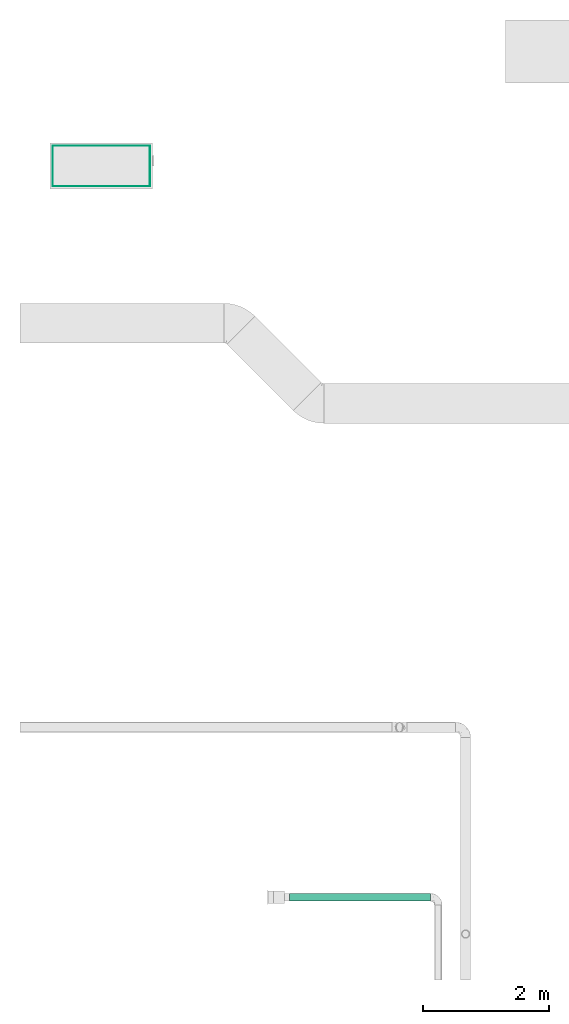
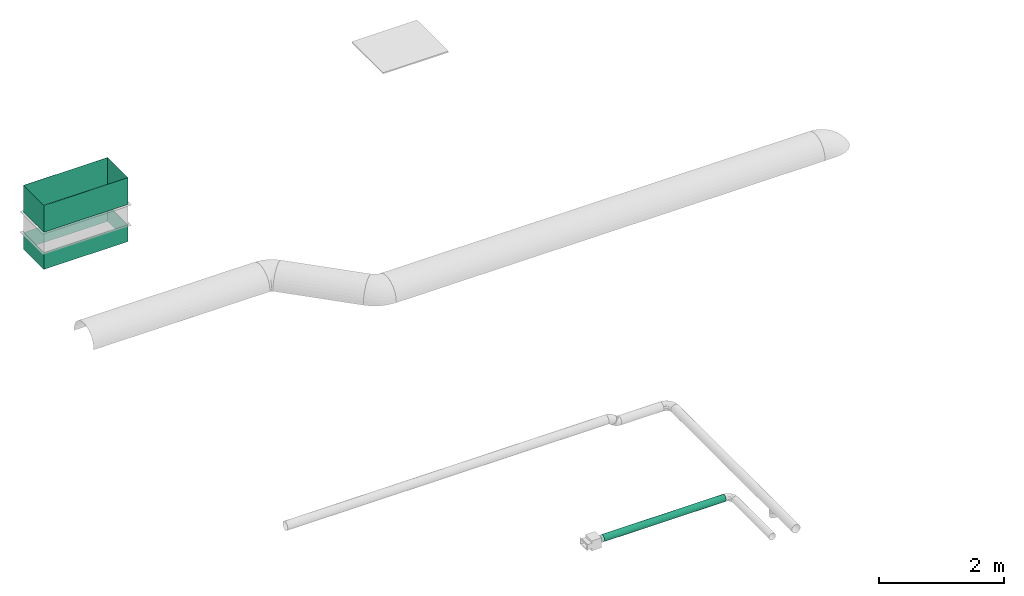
# One storey, part 1 of 10: 3 flow segments.
"""IFC2X3 building model written with IfcOpenShell, lengths in millimetres."""

from ifc_helpers import new_model, entity, si_unit, converted_unit, derived_unit, direction, frame, origin_with_axes, origin_2d_with_axis, place, context, subcontext, project, spatial, hollow_rectangle, hollow_circle, extrude, source, transform, mapped, type_object, element, save


model = new_model("IFC2X3")

# Units and contexts
model_context = context("Model", 3, precision=0.01, world=frame((0.0, 4.29681676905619e-09, 0.0)), true_north=direction((4.01073788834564e-13, 1.0)))
plan_context = context("Plan", 3, precision=0.01, world=frame((0.0, 4.29681676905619e-09, 0.0)), true_north=direction((4.01073788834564e-13, 1.0)))
body_context = subcontext(model_context, "Body", "Model", "MODEL_VIEW")
ifc_project = project(units=[converted_unit("PLANEANGLEUNIT", "DEGREE", entity("IfcPositiveLengthMeasure", 0.0174532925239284), si_unit("PLANEANGLEUNIT", "RADIAN"), dimensions=[0, 0, 0, 0, 0, 0, 0]), si_unit("AREAUNIT", "SQUARE_METRE"), si_unit("LENGTHUNIT", "METRE", prefix="MILLI"), si_unit("MASSUNIT", "GRAM", prefix="KILO"), si_unit("POWERUNIT", "WATT"), si_unit("PRESSUREUNIT", "PASCAL"), si_unit("FORCEUNIT", "NEWTON", prefix="KILO"), si_unit("ELECTRICCURRENTUNIT", "AMPERE"), si_unit("THERMODYNAMICTEMPERATUREUNIT", "DEGREE_CELSIUS"), si_unit("TIMEUNIT", "SECOND"), si_unit("VOLUMEUNIT", "CUBIC_METRE"), derived_unit("LINEARVELOCITYUNIT", [(si_unit("LENGTHUNIT", "METRE"), 1), (si_unit("TIMEUNIT", "SECOND"), -1)]), derived_unit("VOLUMETRICFLOWRATEUNIT", [(si_unit("VOLUMEUNIT", "CUBIC_METRE"), 1), (si_unit("TIMEUNIT", "SECOND"), -1)]), derived_unit("THERMALTRANSMITTANCEUNIT", [(si_unit("POWERUNIT", "WATT"), 1), (si_unit("THERMODYNAMICTEMPERATUREUNIT", "KELVIN"), -1), (si_unit("AREAUNIT", "SQUARE_METRE"), -1)])], contexts=[model_context, plan_context])

# Site, building, storey
site_placement = place(None, frame((0.0, -4.29681676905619e-09, 0.0), z_axis=(0.0, 0.0, 1.0), x_axis=(1.0, 0.0, 0.0)))
site = spatial("IfcSite", under=ifc_project, at=site_placement, CompositionType="ELEMENT")
building_placement = place(site_placement, frame((0.0, 4.29681676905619e-09, 0.0), z_axis=(0.0, 0.0, 1.0), x_axis=(1.0, 0.0, 0.0)))
building = spatial("IfcBuilding", under=site, at=building_placement, Name="mc-building", CompositionType="ELEMENT")
storey_placement = place(building_placement, frame((0.0, 0.0, 200300.0), z_axis=(0.0, 0.0, 1.0), x_axis=(1.0, 0.0, 0.0)))
storey = spatial("IfcBuildingStorey", under=building, at=storey_placement, Name="Nivå C", CompositionType="ELEMENT", Elevation=200300.0)

# Flow segments
duct_segment_type_1 = type_object("IfcDuctSegmentType", Name="KK001T - Spiro kanaler, Forsinket stål", PredefinedType="RIGIDSEGMENT")
shared_shape_1 = source(origin_with_axes(), body_context, "Body", "SweptSolid", [
    extrude(hollow_circle(Radius=62.5, WallThickness=2.0, at=origin_2d_with_axis()), frame((0.0, 0.0, 0.0), z_axis=(1.0, 0.0, 0.0), x_axis=(0.0, 1.0, 0.0)), (0.0, 0.0, 1.0), 2240.7),
])
flow_segment_1_placement = place(storey_placement, frame((520382.1, 402160.46875, 2880.0), z_axis=(0.0, 0.0, 1.0), x_axis=(-1.0, 0.0, 0.0)))
element("IfcFlowSegment", 1, at=flow_segment_1_placement, inside=storey, type_object=duct_segment_type_1, Name="KK001T - Spiro kanaler, Forsinket stål", context=body_context, shape_type="MappedRepresentation", body=[
    mapped(shared_shape_1, transform((0.0, 0.0, 0.0), scale=1.0)),
])
duct_segment_type_2 = type_object("IfcDuctSegmentType", Name="KK002T - Rektangulære, Forsinket stål", PredefinedType="RIGIDSEGMENT")
shared_shape_2 = source(origin_with_axes(), body_context, "Body", "SweptSolid", [
    extrude(hollow_rectangle(XDim=650.0, YDim=1550.0, WallThickness=2.0, at=origin_2d_with_axis()), frame((0.0, 0.0, 0.0), z_axis=(1.0, 0.0, 0.0), x_axis=(0.0, 1.0, 0.0)), (0.0, 0.0, 1.0), 520.0),
])
flow_segment_2_placement = place(storey_placement, frame((515154.5, 413778.4, 3300.0), z_axis=(1.0, 0.0, 0.0), x_axis=(0.0, 0.0, 1.0)))
element("IfcFlowSegment", 2, at=flow_segment_2_placement, inside=storey, type_object=duct_segment_type_2, Name="KK002T - Rektangulære, Forsinket stål", context=body_context, shape_type="MappedRepresentation", body=[
    mapped(shared_shape_2, transform((0.0, 0.0, 0.0), scale=1.0)),
])
duct_segment_type_3 = type_object("IfcDuctSegmentType", Name="Rektangulær kanal", PredefinedType="RIGIDSEGMENT")
shared_shape_3 = source(origin_with_axes(), body_context, "Body", "SweptSolid", [
    extrude(hollow_rectangle(XDim=650.0, YDim=1550.0, WallThickness=2.0, at=origin_2d_with_axis()), frame((0.0, 0.0, 0.0), z_axis=(1.0, 0.0, 0.0), x_axis=(0.0, 1.0, 0.0)), (0.0, 0.0, 1.0), 323.5),
])
flow_segment_3_placement = place(storey_placement, frame((515154.5, 413778.4, 2576.5), z_axis=(1.0, 0.0, 0.0), x_axis=(0.0, 0.0, 1.0)))
element("IfcFlowSegment", 3, at=flow_segment_3_placement, inside=storey, type_object=duct_segment_type_3, Name="Rektangulær kanal", context=body_context, shape_type="MappedRepresentation", body=[
    mapped(shared_shape_3, transform((0.0, 0.0, 0.0), scale=1.0)),
])

save(model, "model.ifc")
